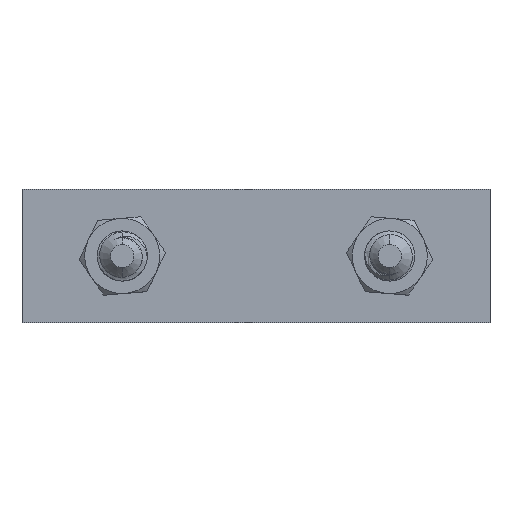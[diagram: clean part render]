
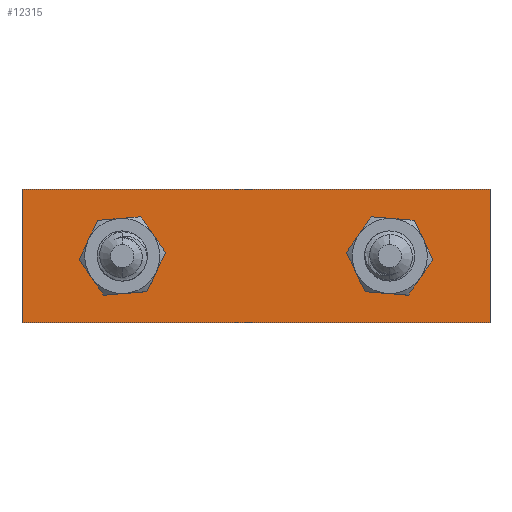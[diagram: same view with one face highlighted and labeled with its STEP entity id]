
A CAD part, front view. The second image highlights one B-rep face of the part: STEP entity #12315.
In plain terms, the highlighted planar face has unit normal (0, -1, 0).
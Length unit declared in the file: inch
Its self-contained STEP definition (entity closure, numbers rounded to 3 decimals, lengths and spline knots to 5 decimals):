
#63 = EDGE_CURVE ( 'Edge7', #12921, #9006, #2805, .T. ) ;
#183 = FACE_BOUND ( 'NONE', #6353, .T. ) ;
#219 = CARTESIAN_POINT ( 'NONE',  ( 2.75, 0.05, 0.25 ) ) ;
#393 = CARTESIAN_POINT ( 'NONE',  ( 2.75, 0.05, -0.25 ) ) ;
#534 = VECTOR ( 'NONE', #3239, 39.37008 ) ;
#702 = LINE ( 'NONE', #13739, #2177 ) ;
#1236 = DIRECTION ( 'NONE',  ( 0., 0., 1. ) ) ;
#1929 = CARTESIAN_POINT ( 'NONE',  ( 0., 0.05, 0. ) ) ;
#1965 = ORIENTED_EDGE ( 'NONE', *, *, #8249, .T. ) ;
#2166 = AXIS2_PLACEMENT_3D ( 'NONE', #8892, #9049, #1236 ) ;
#2177 = VECTOR ( 'NONE', #4848, 39.37008 ) ;
#2505 = CARTESIAN_POINT ( 'NONE',  ( 2.75, 0.05, 0. ) ) ;
#2680 = VERTEX_POINT ( 'NONE', #9844 ) ;
#2768 = DIRECTION ( 'NONE',  ( 0., 0., -1. ) ) ;
#2805 = CIRCLE ( 'NONE', #4726, 0.25 ) ;
#3043 = CIRCLE ( 'NONE', #14797, 0.25 ) ;
#3239 = DIRECTION ( 'NONE',  ( 0., 0., -1. ) ) ;
#3373 = CARTESIAN_POINT ( 'NONE',  ( 3.5, 0.05, 0.875 ) ) ;
#3477 = CARTESIAN_POINT ( 'NONE',  ( 0.75, 0.05, 0.25 ) ) ;
#3533 = EDGE_CURVE ( 'Edge7', #9006, #12921, #12564, .T. ) ;
#3563 = EDGE_LOOP ( 'NONE', ( #15605, #8063, #15423, #4768 ) ) ;
#3657 = DIRECTION ( 'NONE',  ( 0., 0., -1. ) ) ;
#3880 = VERTEX_POINT ( 'NONE', #3477 ) ;
#4726 = AXIS2_PLACEMENT_3D ( 'NONE', #2505, #11440, #9110 ) ;
#4768 = ORIENTED_EDGE ( 'NONE', *, *, #10340, .F. ) ;
#4848 = DIRECTION ( 'NONE',  ( -1., 0., 0. ) ) ;
#5061 = AXIS2_PLACEMENT_3D ( 'NONE', #7371, #12680, #10039 ) ;
#5259 = CARTESIAN_POINT ( 'NONE',  ( 0., 0.05, 0. ) ) ;
#5383 = EDGE_CURVE ( 'NONE', #2680, #6023, #702, .T. ) ;
#5588 = AXIS2_PLACEMENT_3D ( 'NONE', #5259, #10495, #2768 ) ;
#5725 = LINE ( 'NONE', #1929, #534 ) ;
#6023 = VERTEX_POINT ( 'NONE', #10123 ) ;
#6269 = EDGE_CURVE ( 'Edge6', #6023, #14179, #5725, .T. ) ;
#6287 = EDGE_LOOP ( 'NONE', ( #16693, #7786 ) ) ;
#6353 = EDGE_LOOP ( 'NONE', ( #1965, #9728 ) ) ;
#6533 = PLANE ( 'NONE',  #5588 ) ;
#7371 = CARTESIAN_POINT ( 'NONE',  ( 0.75, 0.05, 0. ) ) ;
#7537 = VERTEX_POINT ( 'NONE', #13697 ) ;
#7591 = EDGE_CURVE ( 'Edge13', #14179, #7537, #16613, .T. ) ;
#7786 = ORIENTED_EDGE ( 'NONE', *, *, #63, .T. ) ;
#7917 = FACE_OUTER_BOUND ( 'NONE', #3563, .T. ) ;
#8063 = ORIENTED_EDGE ( 'NONE', *, *, #6269, .T. ) ;
#8249 = EDGE_CURVE ( 'Edge12', #16629, #3880, #3043, .T. ) ;
#8480 = CARTESIAN_POINT ( 'NONE',  ( 3.5, 0.05, -0.49749 ) ) ;
#8892 = CARTESIAN_POINT ( 'NONE',  ( 2.75, 0.05, 0. ) ) ;
#9006 = VERTEX_POINT ( 'NONE', #393 ) ;
#9049 = DIRECTION ( 'NONE',  ( 0., 1., 0. ) ) ;
#9110 = DIRECTION ( 'NONE',  ( 0., 0., 1. ) ) ;
#9180 = CARTESIAN_POINT ( 'NONE',  ( 0.75, 0.05, -0.25 ) ) ;
#9728 = ORIENTED_EDGE ( 'NONE', *, *, #12505, .T. ) ;
#9844 = CARTESIAN_POINT ( 'NONE',  ( 3.5, 0.05, 0.49749 ) ) ;
#10035 = DIRECTION ( 'NONE',  ( 1., 0., 0. ) ) ;
#10039 = DIRECTION ( 'NONE',  ( 0., 0., -1. ) ) ;
#10123 = CARTESIAN_POINT ( 'NONE',  ( 0., 0.05, 0.49749 ) ) ;
#10340 = EDGE_CURVE ( 'Edge10', #2680, #7537, #12271, .T. ) ;
#10495 = DIRECTION ( 'NONE',  ( 0., -1., 0. ) ) ;
#10691 = VECTOR ( 'NONE', #10035, 39.37008 ) ;
#11440 = DIRECTION ( 'NONE',  ( 0., 1., 0. ) ) ;
#12271 = LINE ( 'NONE', #3373, #15104 ) ;
#12315 = ADVANCED_FACE ( 'Face6', ( #14417, #7917, #183 ), #6533, .T. ) ;
#12505 = EDGE_CURVE ( 'Edge12', #3880, #16629, #13798, .T. ) ;
#12564 = CIRCLE ( 'NONE', #2166, 0.25 ) ;
#12680 = DIRECTION ( 'NONE',  ( 0., 1., 0. ) ) ;
#12921 = VERTEX_POINT ( 'NONE', #219 ) ;
#13697 = CARTESIAN_POINT ( 'NONE',  ( 3.5, 0.05, -0.49749 ) ) ;
#13739 = CARTESIAN_POINT ( 'NONE',  ( 3.5, 0.05, 0.49749 ) ) ;
#13798 = CIRCLE ( 'NONE', #5061, 0.25 ) ;
#13921 = DIRECTION ( 'NONE',  ( 0., 1., 0. ) ) ;
#14179 = VERTEX_POINT ( 'NONE', #15704 ) ;
#14417 = FACE_BOUND ( 'NONE', #6287, .T. ) ;
#14797 = AXIS2_PLACEMENT_3D ( 'NONE', #16578, #13921, #3657 ) ;
#15104 = VECTOR ( 'NONE', #15205, 39.37008 ) ;
#15205 = DIRECTION ( 'NONE',  ( 0., 0., -1. ) ) ;
#15423 = ORIENTED_EDGE ( 'NONE', *, *, #7591, .T. ) ;
#15605 = ORIENTED_EDGE ( 'NONE', *, *, #5383, .T. ) ;
#15704 = CARTESIAN_POINT ( 'NONE',  ( 0., 0.05, -0.49749 ) ) ;
#16578 = CARTESIAN_POINT ( 'NONE',  ( 0.75, 0.05, 0. ) ) ;
#16613 = LINE ( 'NONE', #8480, #10691 ) ;
#16629 = VERTEX_POINT ( 'NONE', #9180 ) ;
#16693 = ORIENTED_EDGE ( 'NONE', *, *, #3533, .T. ) ;
